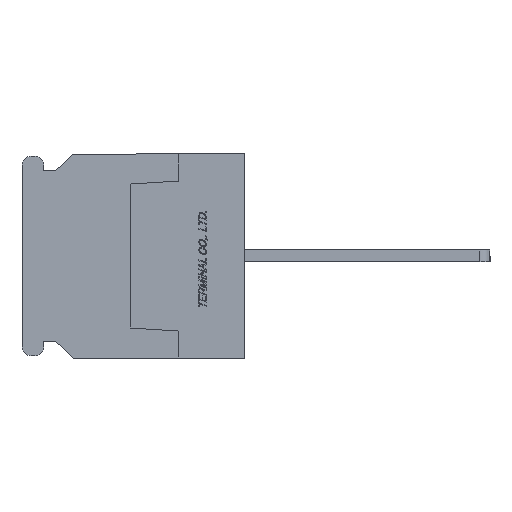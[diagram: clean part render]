
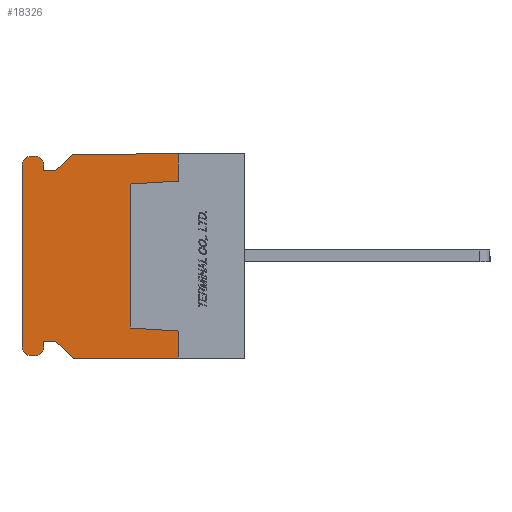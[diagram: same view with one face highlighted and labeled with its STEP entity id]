
A CAD part, left-side view. The second image highlights one B-rep face of the part: STEP entity #18326.
In plain terms, the highlighted planar face has unit normal (-1, 0, 0).
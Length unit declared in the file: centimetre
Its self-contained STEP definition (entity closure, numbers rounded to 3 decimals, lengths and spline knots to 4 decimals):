
#770=CIRCLE('',#31595,0.075);
#771=CIRCLE('',#31598,0.075);
#772=CIRCLE('',#31601,0.075);
#773=CIRCLE('',#31604,0.075);
#1194=VERTEX_POINT('',#24484);
#1195=VERTEX_POINT('',#24486);
#1196=VERTEX_POINT('',#24490);
#1197=VERTEX_POINT('',#24494);
#1198=VERTEX_POINT('',#24498);
#1199=VERTEX_POINT('',#24502);
#1200=VERTEX_POINT('',#24506);
#1201=VERTEX_POINT('',#24510);
#1202=VERTEX_POINT('',#24514);
#1203=VERTEX_POINT('',#24518);
#1204=VERTEX_POINT('',#24522);
#1205=VERTEX_POINT('',#24526);
#1206=VERTEX_POINT('',#24530);
#1207=VERTEX_POINT('',#24534);
#1208=VERTEX_POINT('',#24538);
#1209=VERTEX_POINT('',#24539);
#1210=VERTEX_POINT('',#24542);
#1211=VERTEX_POINT('',#24544);
#1212=VERTEX_POINT('',#24546);
#1213=VERTEX_POINT('',#24548);
#3119=VECTOR('',#20217,1.);
#3122=VECTOR('',#20221,1.);
#3124=VECTOR('',#20224,1.);
#3127=VECTOR('',#20232,1.);
#3130=VECTOR('',#20240,1.);
#3133=VECTOR('',#20248,1.);
#3136=VECTOR('',#20256,1.);
#3138=VECTOR('',#20259,1.);
#3140=VECTOR('',#20262,1.);
#3141=VECTOR('',#20264,1.);
#3142=VECTOR('',#20265,1.);
#3143=VECTOR('',#20266,1.);
#3144=VECTOR('',#20267,1.);
#3145=VECTOR('',#20268,1.);
#3146=VECTOR('',#20269,1.);
#3147=VECTOR('',#20270,1.);
#5205=LINE('',#24485,#3119);
#5208=LINE('',#24491,#3122);
#5210=LINE('',#24495,#3124);
#5213=LINE('',#24503,#3127);
#5216=LINE('',#24511,#3130);
#5219=LINE('',#24519,#3133);
#5222=LINE('',#24527,#3136);
#5224=LINE('',#24531,#3138);
#5226=LINE('',#24535,#3140);
#5227=LINE('',#24537,#3141);
#5228=LINE('',#24540,#3142);
#5229=LINE('',#24541,#3143);
#5230=LINE('',#24543,#3144);
#5231=LINE('',#24545,#3145);
#5232=LINE('',#24547,#3146);
#5233=LINE('',#24549,#3147);
#7295=EDGE_CURVE('',#1194,#1195,#5205,.T.);
#7298=EDGE_CURVE('',#1196,#1194,#5208,.T.);
#7300=EDGE_CURVE('',#1197,#1196,#5210,.T.);
#7302=EDGE_CURVE('',#1198,#1197,#770,.T.);
#7304=EDGE_CURVE('',#1199,#1198,#5213,.T.);
#7306=EDGE_CURVE('',#1200,#1199,#771,.T.);
#7308=EDGE_CURVE('',#1201,#1200,#5216,.T.);
#7310=EDGE_CURVE('',#1202,#1201,#772,.T.);
#7312=EDGE_CURVE('',#1203,#1202,#5219,.T.);
#7314=EDGE_CURVE('',#1204,#1203,#773,.T.);
#7316=EDGE_CURVE('',#1205,#1204,#5222,.T.);
#7318=EDGE_CURVE('',#1206,#1205,#5224,.T.);
#7320=EDGE_CURVE('',#1207,#1206,#5226,.T.);
#7321=EDGE_CURVE('',#1208,#1209,#5227,.T.);
#7322=EDGE_CURVE('',#1195,#1209,#5228,.T.);
#7323=EDGE_CURVE('',#1210,#1207,#5229,.T.);
#7324=EDGE_CURVE('',#1210,#1211,#5230,.T.);
#7325=EDGE_CURVE('',#1211,#1212,#5231,.T.);
#7326=EDGE_CURVE('',#1212,#1213,#5232,.T.);
#7327=EDGE_CURVE('',#1213,#1208,#5233,.T.);
#10228=ORIENTED_EDGE('',*,*,#7321,.T.);
#10229=ORIENTED_EDGE('',*,*,#7322,.F.);
#10230=ORIENTED_EDGE('',*,*,#7295,.F.);
#10231=ORIENTED_EDGE('',*,*,#7298,.F.);
#10232=ORIENTED_EDGE('',*,*,#7300,.F.);
#10233=ORIENTED_EDGE('',*,*,#7302,.F.);
#10234=ORIENTED_EDGE('',*,*,#7304,.F.);
#10235=ORIENTED_EDGE('',*,*,#7306,.F.);
#10236=ORIENTED_EDGE('',*,*,#7308,.F.);
#10237=ORIENTED_EDGE('',*,*,#7310,.F.);
#10238=ORIENTED_EDGE('',*,*,#7312,.F.);
#10239=ORIENTED_EDGE('',*,*,#7314,.F.);
#10240=ORIENTED_EDGE('',*,*,#7316,.F.);
#10241=ORIENTED_EDGE('',*,*,#7318,.F.);
#10242=ORIENTED_EDGE('',*,*,#7320,.F.);
#10243=ORIENTED_EDGE('',*,*,#7323,.F.);
#10244=ORIENTED_EDGE('',*,*,#7324,.T.);
#10245=ORIENTED_EDGE('',*,*,#7325,.T.);
#10246=ORIENTED_EDGE('',*,*,#7326,.T.);
#10247=ORIENTED_EDGE('',*,*,#7327,.T.);
#15934=EDGE_LOOP('',(#10228,#10229,#10230,#10231,#10232,#10233,#10234,#10235,
#10236,#10237,#10238,#10239,#10240,#10241,#10242,#10243,#10244,#10245,#10246,
#10247));
#17130=FACE_BOUND('',#15934,.T.);
#18326=ADVANCED_FACE('',(#17130),#19400,.F.);
#19400=PLANE('',#31608);
#20217=DIRECTION('',(0.,-0.731,0.682));
#20221=DIRECTION('',(0.,-1.,0.));
#20224=DIRECTION('',(0.,0.,-1.));
#20228=DIRECTION('',(1.,0.,0.));
#20229=DIRECTION('',(0.,0.,-0.075));
#20232=DIRECTION('',(0.,-1.,0.));
#20236=DIRECTION('',(1.,0.,0.));
#20237=DIRECTION('',(0.,0.,-0.075));
#20240=DIRECTION('',(0.,0.,1.));
#20244=DIRECTION('',(1.,0.,0.));
#20245=DIRECTION('',(0.,0.,-0.075));
#20248=DIRECTION('',(0.,1.,0.));
#20252=DIRECTION('',(1.,0.,0.));
#20253=DIRECTION('',(0.,0.,-0.075));
#20256=DIRECTION('',(0.,0.,-1.));
#20259=DIRECTION('',(0.,1.,0.));
#20262=DIRECTION('',(0.,0.731,0.682));
#20263=DIRECTION('',(1.,0.,0.));
#20264=DIRECTION('',(0.,0.,1.));
#20265=DIRECTION('',(0.,-1.,0.));
#20266=DIRECTION('',(0.,1.,0.));
#20267=DIRECTION('',(0.,0.,1.));
#20268=DIRECTION('',(0.,0.998,0.062));
#20269=DIRECTION('',(0.,0.,1.));
#20270=DIRECTION('',(0.,-0.998,0.062));
#24484=CARTESIAN_POINT('',(-1.59,0.42,0.71));
#24485=CARTESIAN_POINT('',(-1.59,0.42,0.71));
#24486=CARTESIAN_POINT('',(-1.59,0.27,0.85));
#24490=CARTESIAN_POINT('',(-1.59,0.52,0.71));
#24491=CARTESIAN_POINT('',(-1.59,0.52,0.71));
#24494=CARTESIAN_POINT('',(-1.59,0.52,0.755));
#24495=CARTESIAN_POINT('',(-1.59,0.52,0.755));
#24498=CARTESIAN_POINT('',(-1.59,0.595,0.83));
#24499=CARTESIAN_POINT('',(-1.59,0.595,0.755));
#24502=CARTESIAN_POINT('',(-1.59,0.625,0.83));
#24503=CARTESIAN_POINT('',(-1.59,0.625,0.83));
#24506=CARTESIAN_POINT('',(-1.59,0.7,0.755));
#24507=CARTESIAN_POINT('',(-1.59,0.625,0.755));
#24510=CARTESIAN_POINT('',(-1.59,0.7,-0.755));
#24511=CARTESIAN_POINT('',(-1.59,0.7,-0.755));
#24514=CARTESIAN_POINT('',(-1.59,0.625,-0.83));
#24515=CARTESIAN_POINT('',(-1.59,0.625,-0.755));
#24518=CARTESIAN_POINT('',(-1.59,0.595,-0.83));
#24519=CARTESIAN_POINT('',(-1.59,0.595,-0.83));
#24522=CARTESIAN_POINT('',(-1.59,0.52,-0.755));
#24523=CARTESIAN_POINT('',(-1.59,0.595,-0.755));
#24526=CARTESIAN_POINT('',(-1.59,0.52,-0.71));
#24527=CARTESIAN_POINT('',(-1.59,0.52,-0.71));
#24530=CARTESIAN_POINT('',(-1.59,0.42,-0.71));
#24531=CARTESIAN_POINT('',(-1.59,0.42,-0.71));
#24534=CARTESIAN_POINT('',(-1.59,0.27,-0.85));
#24535=CARTESIAN_POINT('',(-1.59,0.27,-0.85));
#24536=CARTESIAN_POINT('',(-1.59,-0.2117,0.));
#24537=CARTESIAN_POINT('',(-1.59,-0.6,0.625));
#24538=CARTESIAN_POINT('',(-1.59,-0.6,0.625));
#24539=CARTESIAN_POINT('',(-1.59,-0.6,0.85));
#24540=CARTESIAN_POINT('',(-1.59,0.27,0.85));
#24541=CARTESIAN_POINT('',(-1.59,-1.15,-0.85));
#24542=CARTESIAN_POINT('',(-1.59,-0.6,-0.85));
#24543=CARTESIAN_POINT('',(-1.59,-0.6,-0.85));
#24544=CARTESIAN_POINT('',(-1.59,-0.6,-0.625));
#24545=CARTESIAN_POINT('',(-1.59,-0.6,-0.625));
#24546=CARTESIAN_POINT('',(-1.59,-0.2,-0.6));
#24547=CARTESIAN_POINT('',(-1.59,-0.2,-0.6));
#24548=CARTESIAN_POINT('',(-1.59,-0.2,0.6));
#24549=CARTESIAN_POINT('',(-1.59,-0.2,0.6));
#31595=AXIS2_PLACEMENT_3D('',#24499,#20228,#20229);
#31598=AXIS2_PLACEMENT_3D('',#24507,#20236,#20237);
#31601=AXIS2_PLACEMENT_3D('',#24515,#20244,#20245);
#31604=AXIS2_PLACEMENT_3D('',#24523,#20252,#20253);
#31608=AXIS2_PLACEMENT_3D('',#24536,#20263,$);
